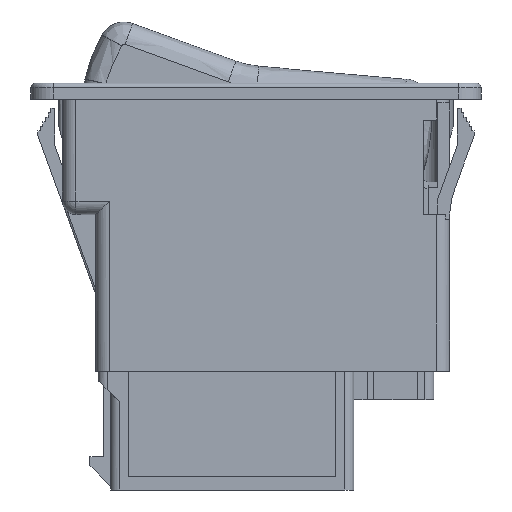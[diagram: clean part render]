
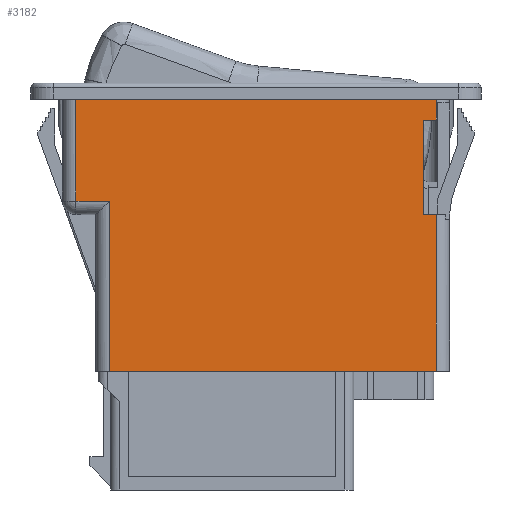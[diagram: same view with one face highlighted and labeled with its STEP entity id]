
A CAD part, front view. The second image highlights one B-rep face of the part: STEP entity #3182.
In plain terms, the highlighted planar face has unit normal (0, -1, 0).
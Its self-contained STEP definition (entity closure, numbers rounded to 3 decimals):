
#3114=AXIS2_PLACEMENT_3D('Plane Axis2P3D',#3111,#3112,#3113) ;
#2449=CARTESIAN_POINT('Vertex',(-20.,-11.,-1.8)) ;
#2452=CARTESIAN_POINT('Line Origine',(0.,-11.,-1.8)) ;
#2456=CARTESIAN_POINT('Vertex',(20.,-11.,-1.8)) ;
#3096=CARTESIAN_POINT('Vertex',(-20.,-11.,-13.1)) ;
#3099=CARTESIAN_POINT('Line Origine',(-20.,-11.,-1.8)) ;
#3111=CARTESIAN_POINT('Axis2P3D Location',(0.,-11.,-32.)) ;
#3116=CARTESIAN_POINT('Line Origine',(20.,-11.,-2.95)) ;
#3120=CARTESIAN_POINT('Vertex',(20.,-11.,-4.1)) ;
#3123=CARTESIAN_POINT('Line Origine',(-18.15,-11.,-13.1)) ;
#3127=CARTESIAN_POINT('Vertex',(-16.3,-11.,-13.1)) ;
#3130=CARTESIAN_POINT('Line Origine',(-16.3,-11.,-22.55)) ;
#3134=CARTESIAN_POINT('Vertex',(-16.3,-11.,-32.)) ;
#3137=CARTESIAN_POINT('Line Origine',(1.85,-11.,-32.)) ;
#3141=CARTESIAN_POINT('Vertex',(20.,-11.,-32.)) ;
#3144=CARTESIAN_POINT('Line Origine',(20.,-11.,-23.3)) ;
#3148=CARTESIAN_POINT('Vertex',(20.,-11.,-14.6)) ;
#3151=CARTESIAN_POINT('Line Origine',(19.3,-11.,-14.6)) ;
#3155=CARTESIAN_POINT('Vertex',(18.6,-11.,-14.6)) ;
#3158=CARTESIAN_POINT('Line Origine',(18.6,-11.,-9.35)) ;
#3162=CARTESIAN_POINT('Vertex',(18.6,-11.,-4.1)) ;
#3165=CARTESIAN_POINT('Line Origine',(19.3,-11.,-4.1)) ;
#2453=DIRECTION('Vector Direction',(-1.,0.,0.)) ;
#3100=DIRECTION('Vector Direction',(0.,0.,1.)) ;
#3112=DIRECTION('Axis2P3D Direction',(0.,1.,0.)) ;
#3113=DIRECTION('Axis2P3D XDirection',(0.,0.,1.)) ;
#3117=DIRECTION('Vector Direction',(0.,0.,1.)) ;
#3124=DIRECTION('Vector Direction',(-1.,0.,0.)) ;
#3131=DIRECTION('Vector Direction',(0.,0.,1.)) ;
#3138=DIRECTION('Vector Direction',(-1.,0.,0.)) ;
#3145=DIRECTION('Vector Direction',(0.,0.,-1.)) ;
#3152=DIRECTION('Vector Direction',(-1.,0.,0.)) ;
#3159=DIRECTION('Vector Direction',(0.,0.,-1.)) ;
#3166=DIRECTION('Vector Direction',(-1.,0.,0.)) ;
#2454=VECTOR('Line Direction',#2453,1.) ;
#3101=VECTOR('Line Direction',#3100,1.) ;
#3118=VECTOR('Line Direction',#3117,1.) ;
#3125=VECTOR('Line Direction',#3124,1.) ;
#3132=VECTOR('Line Direction',#3131,1.) ;
#3139=VECTOR('Line Direction',#3138,1.) ;
#3146=VECTOR('Line Direction',#3145,1.) ;
#3153=VECTOR('Line Direction',#3152,1.) ;
#3160=VECTOR('Line Direction',#3159,1.) ;
#3167=VECTOR('Line Direction',#3166,1.) ;
#3171=ORIENTED_EDGE('',*,*,#3122,.T.) ;
#3172=ORIENTED_EDGE('',*,*,#2458,.T.) ;
#3173=ORIENTED_EDGE('',*,*,#3103,.T.) ;
#3174=ORIENTED_EDGE('',*,*,#3129,.F.) ;
#3175=ORIENTED_EDGE('',*,*,#3136,.F.) ;
#3176=ORIENTED_EDGE('',*,*,#3143,.F.) ;
#3177=ORIENTED_EDGE('',*,*,#3150,.F.) ;
#3178=ORIENTED_EDGE('',*,*,#3157,.T.) ;
#3179=ORIENTED_EDGE('',*,*,#3164,.F.) ;
#3180=ORIENTED_EDGE('',*,*,#3169,.F.) ;
#3182=ADVANCED_FACE('PartBody',(#3181),#3115,.F.) ;
#2458=EDGE_CURVE('',#2457,#2450,#2455,.T.) ;
#3103=EDGE_CURVE('',#2450,#3097,#3102,.F.) ;
#3122=EDGE_CURVE('',#3121,#2457,#3119,.T.) ;
#3129=EDGE_CURVE('',#3128,#3097,#3126,.T.) ;
#3136=EDGE_CURVE('',#3135,#3128,#3133,.T.) ;
#3143=EDGE_CURVE('',#3142,#3135,#3140,.T.) ;
#3150=EDGE_CURVE('',#3149,#3142,#3147,.T.) ;
#3157=EDGE_CURVE('',#3149,#3156,#3154,.T.) ;
#3164=EDGE_CURVE('',#3163,#3156,#3161,.T.) ;
#3169=EDGE_CURVE('',#3121,#3163,#3168,.T.) ;
#3170=EDGE_LOOP('',(#3171,#3172,#3173,#3174,#3175,#3176,#3177,#3178,#3179,#3180)) ;
#3181=FACE_OUTER_BOUND('',#3170,.T.) ;
#2455=LINE('Line',#2452,#2454) ;
#3102=LINE('Line',#3099,#3101) ;
#3119=LINE('Line',#3116,#3118) ;
#3126=LINE('Line',#3123,#3125) ;
#3133=LINE('Line',#3130,#3132) ;
#3140=LINE('Line',#3137,#3139) ;
#3147=LINE('Line',#3144,#3146) ;
#3154=LINE('Line',#3151,#3153) ;
#3161=LINE('Line',#3158,#3160) ;
#3168=LINE('Line',#3165,#3167) ;
#3115=PLANE('',#3114) ;
#2450=VERTEX_POINT('',#2449) ;
#2457=VERTEX_POINT('',#2456) ;
#3097=VERTEX_POINT('',#3096) ;
#3121=VERTEX_POINT('',#3120) ;
#3128=VERTEX_POINT('',#3127) ;
#3135=VERTEX_POINT('',#3134) ;
#3142=VERTEX_POINT('',#3141) ;
#3149=VERTEX_POINT('',#3148) ;
#3156=VERTEX_POINT('',#3155) ;
#3163=VERTEX_POINT('',#3162) ;
